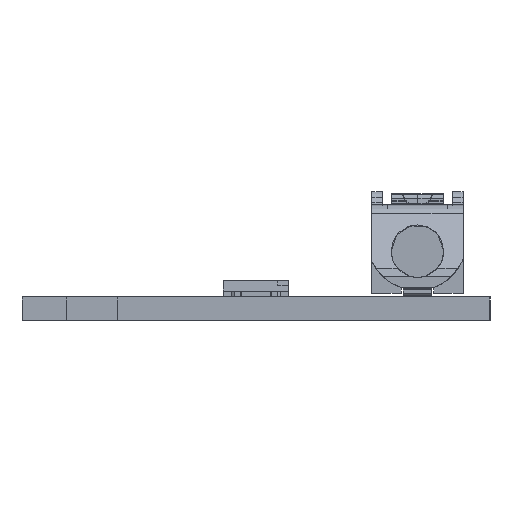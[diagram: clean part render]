
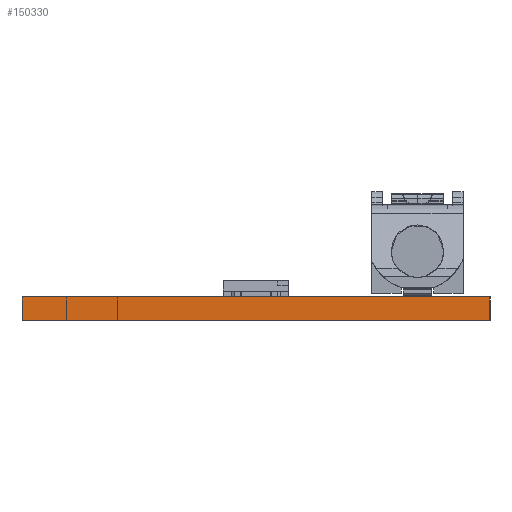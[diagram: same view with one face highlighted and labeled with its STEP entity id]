
A CAD part, left-side view. The second image highlights one B-rep face of the part: STEP entity #150330.
In plain terms, the highlighted planar face has unit normal (-1, 0, 0).
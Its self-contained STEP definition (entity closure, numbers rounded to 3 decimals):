
#136980=CARTESIAN_POINT('',(-19.818,126.455,0.));
#136990=DIRECTION('',(0.,1.,0.));
#137000=VECTOR('',#136990,1.);
#137010=LINE('',#136980,#137000);
#137020=CARTESIAN_POINT('',(-19.818,126.455,0.));
#137030=VERTEX_POINT('',#137020);
#137040=CARTESIAN_POINT('',(-19.818,146.455,0.));
#137050=VERTEX_POINT('',#137040);
#137060=EDGE_CURVE('',#137030,#137050,#137010,.T.);
#149900=CARTESIAN_POINT('',(-19.818,126.455,-1.));
#149910=VERTEX_POINT('',#149900);
#149940=CARTESIAN_POINT('',(-19.818,126.455,0.));
#149950=DIRECTION('',(0.,0.,-1.));
#149960=VECTOR('',#149950,1.);
#149970=LINE('',#149940,#149960);
#149980=EDGE_CURVE('',#137030,#149910,#149970,.T.);
#150100=CARTESIAN_POINT('',(-19.818,126.455,0.));
#150110=DIRECTION('',(1.,0.,0.));
#150120=DIRECTION('',(0.,-1.,0.));
#150130=AXIS2_PLACEMENT_3D('',#150100,#150110,#150120);
#150140=PLANE('',#150130);
#150150=ORIENTED_EDGE('',*,*,#137060,.T.);
#150160=ORIENTED_EDGE('',*,*,#149980,.F.);
#150170=CARTESIAN_POINT('',(-19.818,126.455,-1.));
#150180=DIRECTION('',(0.,1.,0.));
#150190=VECTOR('',#150180,1.);
#150200=LINE('',#150170,#150190);
#150210=CARTESIAN_POINT('',(-19.818,146.455,-1.));
#150220=VERTEX_POINT('',#150210);
#150230=EDGE_CURVE('',#149910,#150220,#150200,.T.);
#150240=ORIENTED_EDGE('',*,*,#150230,.F.);
#150250=CARTESIAN_POINT('',(-19.818,146.455,0.));
#150260=DIRECTION('',(0.,0.,-1.));
#150270=VECTOR('',#150260,1.);
#150280=LINE('',#150250,#150270);
#150290=EDGE_CURVE('',#137050,#150220,#150280,.T.);
#150300=ORIENTED_EDGE('',*,*,#150290,.T.);
#150310=EDGE_LOOP('',(#150300,#150240,#150160,#150150));
#150320=FACE_OUTER_BOUND('',#150310,.T.);
#150330=ADVANCED_FACE('',(#150320),#150140,.F.);
